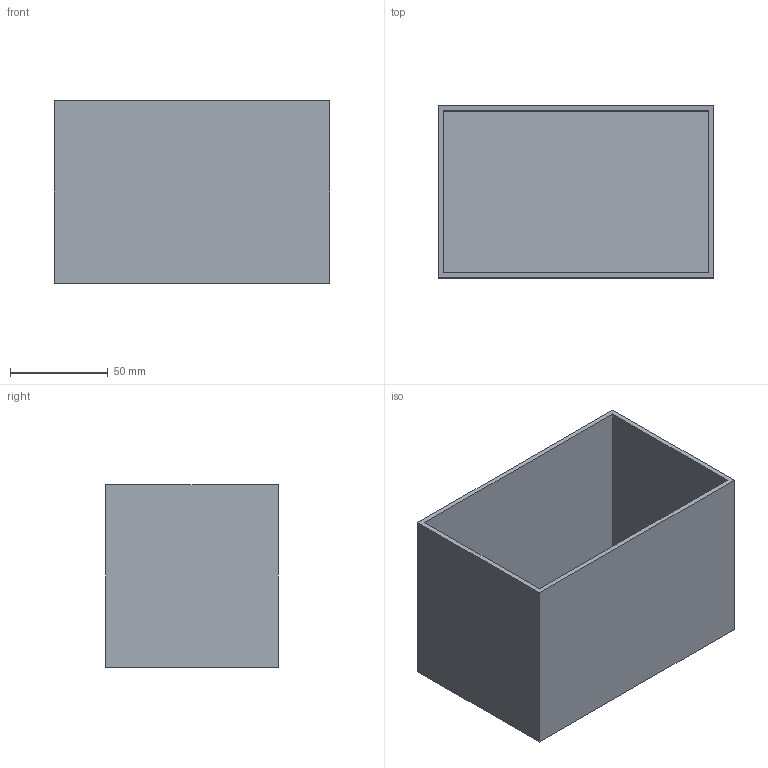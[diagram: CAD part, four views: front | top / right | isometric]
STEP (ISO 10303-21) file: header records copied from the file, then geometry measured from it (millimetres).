
FILE_DESCRIPTION(('Open CASCADE Model'),'2;1');
FILE_NAME('Open CASCADE Shape Model','2026-07-25T17:37:03',('Author'),( 'Open CASCADE'),'Open CASCADE STEP processor 7.9','build123d', 'Unknown');
FILE_SCHEMA(('AUTOMOTIVE_DESIGN { 1 0 10303 214 1 1 1 1 }'));
Length unit declared in the file: millimetre
Products named in the file (1): COMPOUND
Bounding box: 141 x 88 x 93.5 mm (x, y, z)
Volume: 144211 mm3; surface area: 107177.4 mm2
Topology: 1 solids, 1 shells, 557 faces, 1530 edges, 1020 vertices
Faces by surface type: extrusion 359, plane 198
Entity records: 43640 total; most frequent: CARTESIAN_POINT 16782, DIRECTION 3258, ORIENTED_EDGE 3060, PCURVE 3060, DEFINITIONAL_REPRESENTATION 3060, VECTOR 2860, LINE 2501, B_SPLINE_CURVE_WITH_KNOTS 2448
